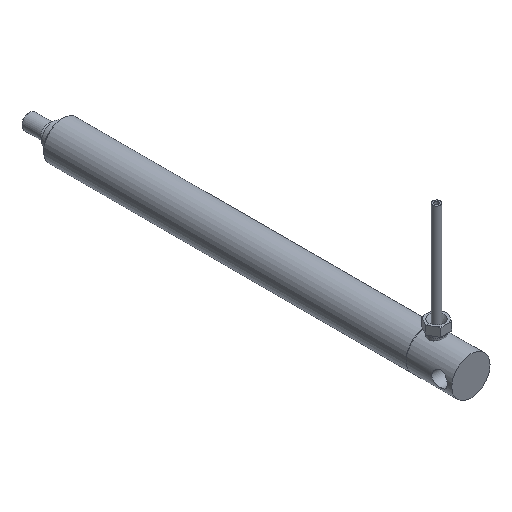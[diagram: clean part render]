
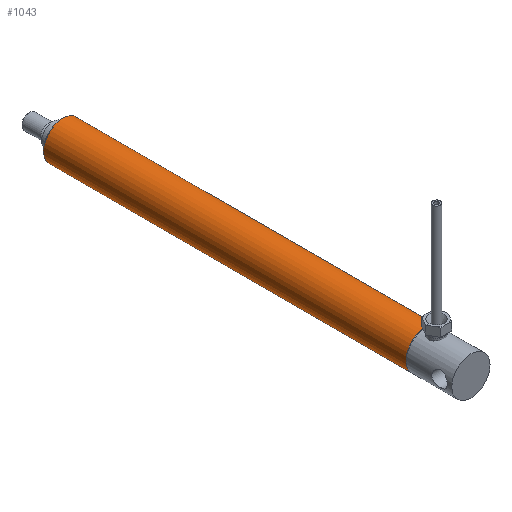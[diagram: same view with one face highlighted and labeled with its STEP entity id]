
A CAD part, isometric view. The second image highlights one B-rep face of the part: STEP entity #1043.
In plain terms, the highlighted cylindrical face has radius 10 mm (diameter 20 mm), a full revolution.
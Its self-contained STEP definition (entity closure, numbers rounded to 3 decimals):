
#175=CYLINDRICAL_SURFACE('',#1672,10.);
#212=ORIENTED_EDGE('',*,*,#428,.F.);
#213=ORIENTED_EDGE('',*,*,#427,.T.);
#427=EDGE_CURVE('',#537,#537,#637,.T.);
#428=EDGE_CURVE('',#538,#538,#638,.T.);
#537=VERTEX_POINT('',#2211);
#538=VERTEX_POINT('',#2214);
#637=CIRCLE('',#1671,10.);
#638=CIRCLE('',#1673,10.);
#717=EDGE_LOOP('',(#212));
#718=EDGE_LOOP('',(#213));
#878=FACE_BOUND('',#717,.T.);
#879=FACE_BOUND('',#718,.T.);
#1043=ADVANCED_FACE('',(#878,#879),#175,.T.);
#1671=AXIS2_PLACEMENT_3D('',#2210,#1854,#1855);
#1672=AXIS2_PLACEMENT_3D('',#2212,#1856,#1857);
#1673=AXIS2_PLACEMENT_3D('',#2213,#1858,#1859);
#1854=DIRECTION('',(-1.,0.,0.));
#1855=DIRECTION('',(0.,0.,1.));
#1856=DIRECTION('',(-1.,0.,0.));
#1857=DIRECTION('',(0.,0.,1.));
#1858=DIRECTION('',(-1.,0.,0.));
#1859=DIRECTION('',(0.,0.,1.));
#2210=CARTESIAN_POINT('',(190.,0.,0.));
#2211=CARTESIAN_POINT('',(190.,0.,10.));
#2212=CARTESIAN_POINT('',(-60.,0.,0.));
#2213=CARTESIAN_POINT('',(0.,0.,0.));
#2214=CARTESIAN_POINT('',(0.,0.,10.));
